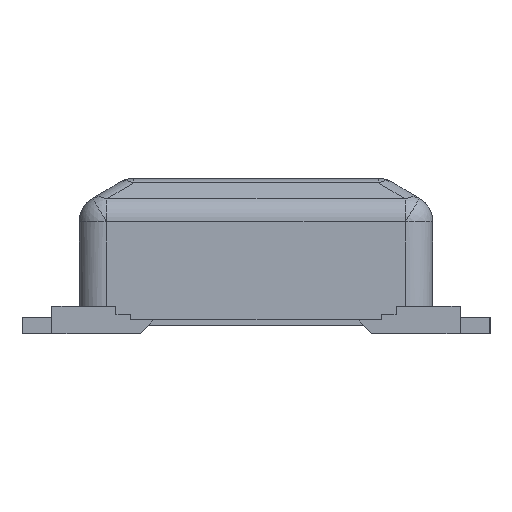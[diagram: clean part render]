
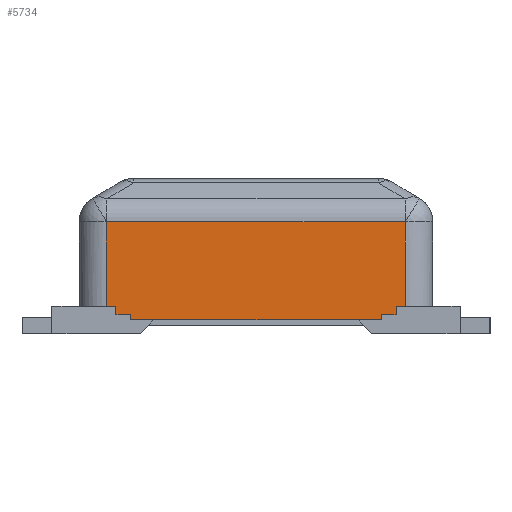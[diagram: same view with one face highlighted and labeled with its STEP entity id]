
A CAD part, left-side view. The second image highlights one B-rep face of the part: STEP entity #5734.
In plain terms, the highlighted planar face has unit normal (-1, 0, 0).
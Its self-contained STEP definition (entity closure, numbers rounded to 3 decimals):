
#4067=CARTESIAN_POINT('Vertex',(5.52,0.55,0.38)) ;
#4174=CARTESIAN_POINT('Vertex',(5.52,-0.549,0.38)) ;
#4270=CARTESIAN_POINT('Vertex',(5.52,0.55,0.07)) ;
#4273=CARTESIAN_POINT('Line Origine',(5.52,0.55,0.225)) ;
#4289=CARTESIAN_POINT('Vertex',(5.52,0.515,0.07)) ;
#4294=CARTESIAN_POINT('Line Origine',(5.52,0.533,0.07)) ;
#5604=CARTESIAN_POINT('Vertex',(5.52,-0.55,0.07)) ;
#5607=CARTESIAN_POINT('Line Origine',(5.52,-0.533,0.07)) ;
#5611=CARTESIAN_POINT('Vertex',(5.52,-0.515,0.07)) ;
#5639=CARTESIAN_POINT('Line Origine',(5.52,-0.55,0.225)) ;
#5656=CARTESIAN_POINT('Line Origine',(5.52,0.,0.381)) ;
#5668=CARTESIAN_POINT('Axis2P3D Location',(5.52,0.,0.)) ;
#5673=CARTESIAN_POINT('Line Origine',(5.52,-0.46,0.03)) ;
#5677=CARTESIAN_POINT('Vertex',(5.52,-0.46,0.02)) ;
#5679=CARTESIAN_POINT('Vertex',(5.52,-0.46,0.04)) ;
#5682=CARTESIAN_POINT('Line Origine',(5.52,-0.488,0.04)) ;
#5686=CARTESIAN_POINT('Vertex',(5.52,-0.515,0.04)) ;
#5689=CARTESIAN_POINT('Line Origine',(5.52,-0.515,0.055)) ;
#5694=CARTESIAN_POINT('Line Origine',(5.52,0.515,0.055)) ;
#5698=CARTESIAN_POINT('Vertex',(5.52,0.515,0.04)) ;
#5701=CARTESIAN_POINT('Line Origine',(5.52,0.488,0.04)) ;
#5705=CARTESIAN_POINT('Vertex',(5.52,0.46,0.04)) ;
#5708=CARTESIAN_POINT('Line Origine',(5.52,0.46,0.03)) ;
#5712=CARTESIAN_POINT('Vertex',(5.52,0.46,0.02)) ;
#5715=CARTESIAN_POINT('Line Origine',(5.52,0.,0.02)) ;
#4274=DIRECTION('Vector Direction',(0.,0.,1.)) ;
#4295=DIRECTION('Vector Direction',(0.,-1.,0.)) ;
#5608=DIRECTION('Vector Direction',(0.,-1.,0.)) ;
#5640=DIRECTION('Vector Direction',(0.,0.,-1.)) ;
#5657=DIRECTION('Vector Direction',(0.,-1.,0.)) ;
#5669=DIRECTION('Axis2P3D Direction',(1.,0.,0.)) ;
#5670=DIRECTION('Axis2P3D XDirection',(0.,1.,0.)) ;
#5674=DIRECTION('Vector Direction',(0.,0.,-1.)) ;
#5683=DIRECTION('Vector Direction',(0.,1.,0.)) ;
#5690=DIRECTION('Vector Direction',(0.,0.,1.)) ;
#5695=DIRECTION('Vector Direction',(0.,0.,1.)) ;
#5702=DIRECTION('Vector Direction',(0.,1.,0.)) ;
#5709=DIRECTION('Vector Direction',(0.,0.,-1.)) ;
#5716=DIRECTION('Vector Direction',(0.,-1.,0.)) ;
#5671=AXIS2_PLACEMENT_3D('Plane Axis2P3D',#5668,#5669,#5670) ;
#5721=ORIENTED_EDGE('',*,*,#5681,.T.) ;
#5722=ORIENTED_EDGE('',*,*,#5688,.T.) ;
#5723=ORIENTED_EDGE('',*,*,#5693,.T.) ;
#5724=ORIENTED_EDGE('',*,*,#5613,.T.) ;
#5725=ORIENTED_EDGE('',*,*,#5643,.T.) ;
#5726=ORIENTED_EDGE('',*,*,#5660,.T.) ;
#5727=ORIENTED_EDGE('',*,*,#4277,.F.) ;
#5728=ORIENTED_EDGE('',*,*,#4298,.F.) ;
#5729=ORIENTED_EDGE('',*,*,#5700,.F.) ;
#5730=ORIENTED_EDGE('',*,*,#5707,.F.) ;
#5731=ORIENTED_EDGE('',*,*,#5714,.F.) ;
#5732=ORIENTED_EDGE('',*,*,#5719,.F.) ;
#4275=VECTOR('Line Direction',#4274,1.) ;
#4296=VECTOR('Line Direction',#4295,1.) ;
#5609=VECTOR('Line Direction',#5608,1.) ;
#5641=VECTOR('Line Direction',#5640,1.) ;
#5658=VECTOR('Line Direction',#5657,1.) ;
#5675=VECTOR('Line Direction',#5674,1.) ;
#5684=VECTOR('Line Direction',#5683,1.) ;
#5691=VECTOR('Line Direction',#5690,1.) ;
#5696=VECTOR('Line Direction',#5695,1.) ;
#5703=VECTOR('Line Direction',#5702,1.) ;
#5710=VECTOR('Line Direction',#5709,1.) ;
#5717=VECTOR('Line Direction',#5716,1.) ;
#5734=ADVANCED_FACE('\X2\FF8AFF9FFF70FF82\X0\ \X2\FF8EFF9EFF83FF9EFF68FF70\X0\',(#5733),#5672,.F.) ;
#4277=EDGE_CURVE('',#4271,#4068,#4276,.T.) ;
#4298=EDGE_CURVE('',#4290,#4271,#4297,.F.) ;
#5613=EDGE_CURVE('',#5612,#5605,#5610,.T.) ;
#5643=EDGE_CURVE('',#5605,#4175,#5642,.F.) ;
#5660=EDGE_CURVE('',#4175,#4068,#5659,.F.) ;
#5681=EDGE_CURVE('',#5678,#5680,#5676,.F.) ;
#5688=EDGE_CURVE('',#5680,#5687,#5685,.F.) ;
#5693=EDGE_CURVE('',#5687,#5612,#5692,.T.) ;
#5700=EDGE_CURVE('',#5699,#4290,#5697,.T.) ;
#5707=EDGE_CURVE('',#5706,#5699,#5704,.T.) ;
#5714=EDGE_CURVE('',#5713,#5706,#5711,.F.) ;
#5719=EDGE_CURVE('',#5678,#5713,#5718,.F.) ;
#5720=EDGE_LOOP('',(#5721,#5722,#5723,#5724,#5725,#5726,#5727,#5728,#5729,#5730,#5731,#5732)) ;
#5733=FACE_OUTER_BOUND('',#5720,.T.) ;
#4276=LINE('Line',#4273,#4275) ;
#4297=LINE('Line',#4294,#4296) ;
#5610=LINE('Line',#5607,#5609) ;
#5642=LINE('Line',#5639,#5641) ;
#5659=LINE('Line',#5656,#5658) ;
#5676=LINE('Line',#5673,#5675) ;
#5685=LINE('Line',#5682,#5684) ;
#5692=LINE('Line',#5689,#5691) ;
#5697=LINE('Line',#5694,#5696) ;
#5704=LINE('Line',#5701,#5703) ;
#5711=LINE('Line',#5708,#5710) ;
#5718=LINE('Line',#5715,#5717) ;
#5672=PLANE('',#5671) ;
#4068=VERTEX_POINT('',#4067) ;
#4175=VERTEX_POINT('',#4174) ;
#4271=VERTEX_POINT('',#4270) ;
#4290=VERTEX_POINT('',#4289) ;
#5605=VERTEX_POINT('',#5604) ;
#5612=VERTEX_POINT('',#5611) ;
#5678=VERTEX_POINT('',#5677) ;
#5680=VERTEX_POINT('',#5679) ;
#5687=VERTEX_POINT('',#5686) ;
#5699=VERTEX_POINT('',#5698) ;
#5706=VERTEX_POINT('',#5705) ;
#5713=VERTEX_POINT('',#5712) ;
